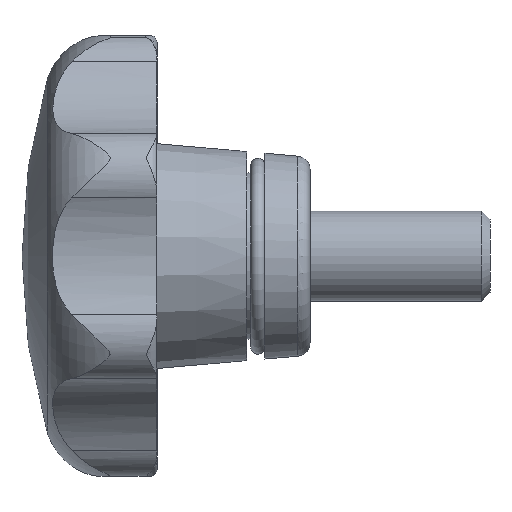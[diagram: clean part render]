
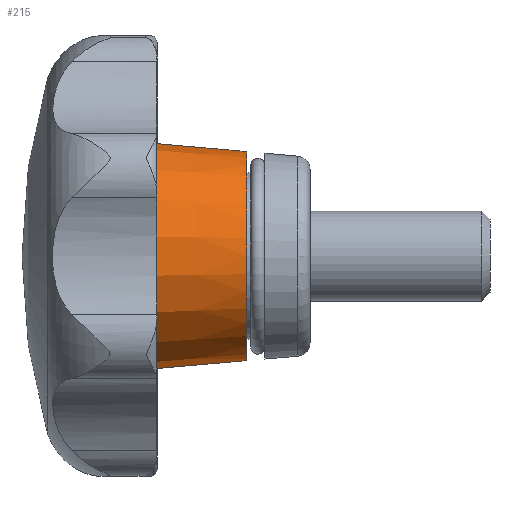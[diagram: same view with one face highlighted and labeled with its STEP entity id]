
A CAD part, left-side view. The second image highlights one B-rep face of the part: STEP entity #215.
In plain terms, the highlighted conical face has half-angle 5 degrees and reference radius 13.109 mm.
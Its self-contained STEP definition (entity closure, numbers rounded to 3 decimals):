
#215 = ADVANCED_FACE( '', ( #423, #424 ), #425, .T. );
#423 = FACE_BOUND( '', #746, .T. );
#424 = FACE_OUTER_BOUND( '', #747, .T. );
#425 = CONICAL_SURFACE( '', #748, 13.109, 0.087 );
#746 = EDGE_LOOP( '', ( #1353 ) );
#747 = EDGE_LOOP( '', ( #1354 ) );
#748 = AXIS2_PLACEMENT_3D( '', #1355, #1356, #1357 );
#1353 = ORIENTED_EDGE( '', *, *, #2159, .F. );
#1354 = ORIENTED_EDGE( '', *, *, #2160, .T. );
#1355 = CARTESIAN_POINT( '', ( 0., 24.053, 0. ) );
#1356 = DIRECTION( '', ( 0., 1., 0. ) );
#1357 = DIRECTION( '', ( 0., 0., 1. ) );
#2159 = EDGE_CURVE( '', #2623, #2623, #2624, .T. );
#2160 = EDGE_CURVE( '', #2625, #2625, #2626, .T. );
#2623 = VERTEX_POINT( '', #4026 );
#2624 = CIRCLE( '', #4027, 11.617 );
#2625 = VERTEX_POINT( '', #4028 );
#2626 = CIRCLE( '', #4029, 13.109 );
#4026 = CARTESIAN_POINT( '', ( 0., 7., -11.617 ) );
#4027 = AXIS2_PLACEMENT_3D( '', #4706, #4707, #4708 );
#4028 = CARTESIAN_POINT( '', ( 0., 24.053, -13.109 ) );
#4029 = AXIS2_PLACEMENT_3D( '', #4709, #4710, #4711 );
#4706 = CARTESIAN_POINT( '', ( 0., 7., 0. ) );
#4707 = DIRECTION( '', ( 0., -1., 0. ) );
#4708 = DIRECTION( '', ( 0., 0., -1. ) );
#4709 = CARTESIAN_POINT( '', ( 0., 24.053, 0. ) );
#4710 = DIRECTION( '', ( 0., -1., 0. ) );
#4711 = DIRECTION( '', ( 0., 0., -1. ) );
